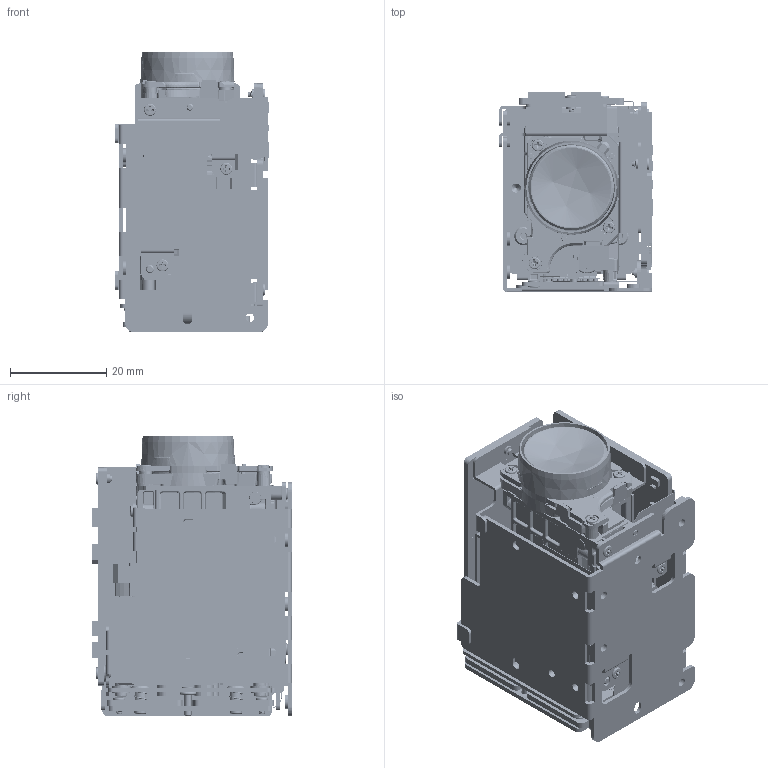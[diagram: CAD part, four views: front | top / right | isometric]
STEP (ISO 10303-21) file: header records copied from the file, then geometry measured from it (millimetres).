
FILE_DESCRIPTION(('CATIA V5 STEP Exchange'),'2;1');
FILE_NAME('C:\Users\t1400282\Desktop\DAOO3M\DA003_ALL_ASSY_01262016.stp','2016-01-26T01:39:49+00:00',('none'),('none'),'CATIA Version 5 Release 19 SP 8 (IN-10)','CATIA V5 STEP AP203','none');
FILE_SCHEMA(('CONFIG_CONTROL_DESIGN'));
Products named in the file (16): ALL_ASSY; TMX-A001_MAIN_Assy_0708; TMX-A001_BASE_PLATE_Assy(A); DA003; 基本座標系; TMX-A001_MAIN_Assy_0708_1; TMX-A001_POWER_PCB_ASSY(BB); DA003.3; 基本座標系_1; TMX-A001_MAIN_Assy_0708_2; TMX-A001_MAIN_PCB_Assy(A); DA003_SENSOR_ASSY_N08252015; DA003.1; 基本座標系_2; TMX-A001_MAIN_Assy_0708_3; TMX-A001_SENSOR_Assy(OV4689)
Assembly tree (80 placements, depth 6):
  ALL_ASSY
    #58
    #81  x3
    #2644  x3
    TMX-A001_MAIN_Assy_0708
      #3316  x5
      #7356  x3
      #8488
      #15660
      TMX-A001_BASE_PLATE_Assy(A)
        #120003  x2
        #120604  x3
        #121279  x3
        #125605
      #129396
      #155119
      #155294
      #467036
      #472812  x3
      #473011
      #487763
      #501708
    DA003
      基本座標系
      TMX-A001_MAIN_Assy_0708_1
        TMX-A001_POWER_PCB_ASSY(BB)
          #548357  x2
          #548733
          #700819
          #702461
          #720501
    DA003.3
      基本座標系_1
      TMX-A001_MAIN_Assy_0708_2
        TMX-A001_MAIN_PCB_Assy(A)
          #744006
          #756123
          #807961
          #902661
          #972000
          #987812
    DA003_SENSOR_ASSY_N08252015
      #58
      DA003.1
        基本座標系_2
        TMX-A001_MAIN_Assy_0708_3
          TMX-A001_SENSOR_Assy(OV4689)
            #999330
            #999505
            #1005170
            #1009481
            #1104181
        #1005170  x2
      #1128508
    #1005170  x6
    #1131924  x2
Bounding box: 31.89 x 41.5 x 58.4 mm (x, y, z)
Volume: 18239 mm3; surface area: 58494.9 mm2
Topology: 140 solids, 1712 shells, 30018 faces, 91961 edges, 64178 vertices
Faces by surface type: plane 17639, cylinder 6368, bspline 4322, cone 1159, revolution 366, torus 94, sphere 70
Entity records: 1129715 total; most frequent: CARTESIAN_POINT 416872, ORIENTED_EDGE 161697, DIRECTION 112823, EDGE_CURVE 86359, VERTEX_POINT 60869, VECTOR 55347, LINE 55347, AXIS2_PLACEMENT_3D 33057
